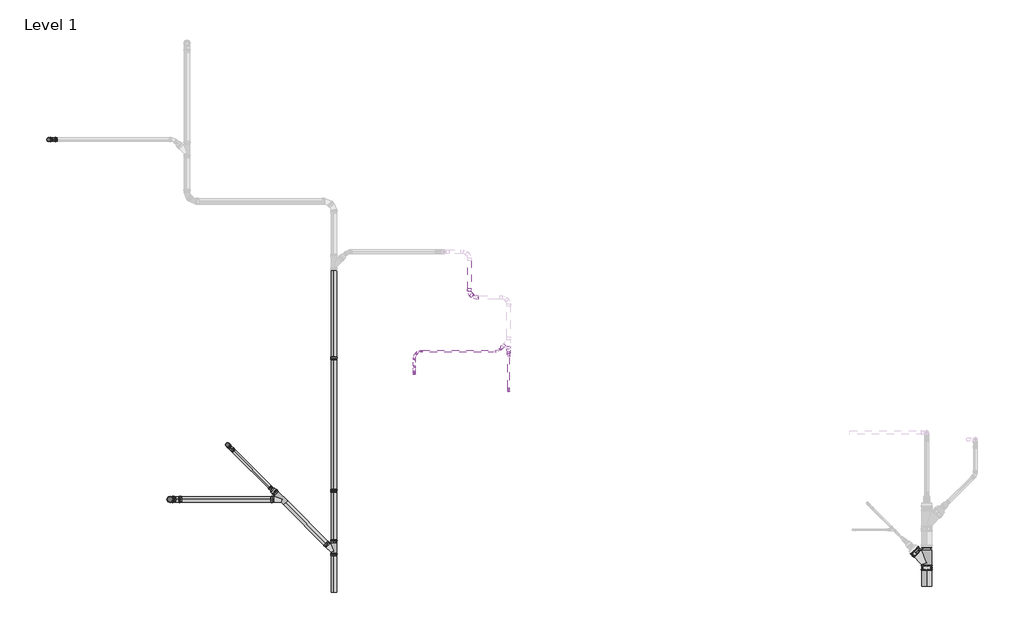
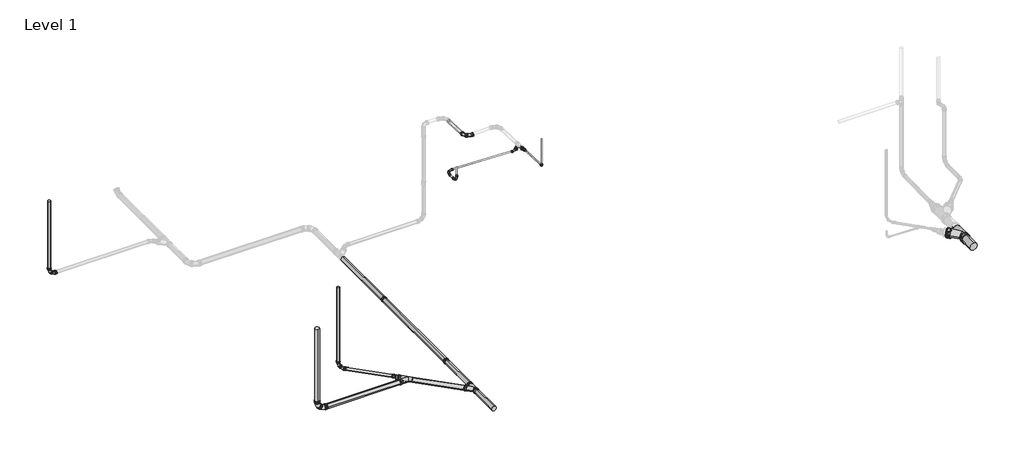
# One storey, part 1 of 8: 70 pipe fittings, 17 pipe segments.
"""IFC4 building model written with IfcOpenShell, lengths in millimetres."""

from ifc_helpers import new_model, si_unit, point, frame, frame_2d, origin, place, context, project, spatial, circle_curve, trimmed, segment, composite_curve, outline, extrude, transform, mapped, element, save
from components import std_369a79f5, std_37057e49, std_dee5be90, std_f0847e49, std_7ccef80b, std_0ddcd905, std_1f125482, std_4019324e, std_512bb775, std_3df9fb00, std_5a9869cf, std_dbb25919, std_nested_5b5722a1, std_nested_64a60f05, std_nested_30a605e0, std_nested_7094c661, std_nested_2aa3ba4e, std_nested_09001758, std_nested_0d9e00e9, std_nested_abb7c94b, std_nested_8823e034, std_nested_0554dc6d, std_nested_e6348f04, std_nested_a5353b42, std_nested_638a4417, std_nested_4ea8f2c9, std_nested_01edd257, std_nested_89a7624e, std_nested_dd60fd8d, std_nested_b0fd537b, std_nested_82956641, std_nested_473bf3f7, std_nested_83654513, std_nested_352c3d66, std_nested_72f87268, std_nested_de9a7761, std_nested_596bb4c3, std_nested_6f421a5c, std_nested_5daa23bf

model = new_model("IFC4")

# Units and contexts
model_context = context("Model", 3, world=origin())
ifc_project = project(units=[si_unit("LENGTHUNIT", "METRE", prefix="MILLI")], contexts=[model_context])

# Site, building, storey
site = spatial("IfcSite", under=ifc_project)
building = spatial("IfcBuilding", under=site)
storey = spatial("IfcBuildingStorey", under=building, Name="Level 1", Elevation=0.0)

# Pipe fittings
placement = place(None, origin())
std_shape = std_369a79f5(model_context)
element("IfcPipeFitting", 1, ObjectType="PIF_ST_UN_GM-X pipe end_ACO : std", at=placement, inside=storey, context=model_context, shape_type="MappedRepresentation", body=[
    mapped(std_shape, transform((-24268.2867366, 5467.3315003, 15.5), x_axis=(0.0, -1.0, 0.0), y_axis=(1.0, 0.0, 0.0), z_axis=(0.0, 0.0, 1.0))),
])
element("IfcPipeFitting", 2, ObjectType="PIF_ST_UN_GM-X pipe end_ACO : std", at=placement, inside=storey, context=model_context, shape_type="MappedRepresentation", body=[
    mapped(std_shape, transform((-24268.2867366, 1687.2987057, 15.5), x_axis=(0.0, -1.0, 0.0), y_axis=(1.0, 0.0, 0.0), z_axis=(0.0, 0.0, 1.0))),
])
std_2_shape = std_37057e49(model_context)
element("IfcPipeFitting", 3, ObjectType="PIF_ST_UN_GM-X angle bend 1a push socket_ACO : std", at=placement, inside=storey, context=model_context, shape_type="MappedRepresentation", body=[
    mapped(std_2_shape, transform((-19270.0353213, 4570.9654393, 3808.6513127), x_axis=(0.0, 0.0, -1.0), y_axis=(0.0, 1.0, 0.0), z_axis=(1.0, 0.0, 0.0))),
])
std_3_shape = std_dee5be90(model_context)
element("IfcPipeFitting", 4, ObjectType="PIF_ST_UN_GM-X double bend_ACO : std", at=placement, inside=storey, context=model_context, shape_type="MappedRepresentation", body=[
    mapped(std_3_shape, transform((-28953.2109771, 1476.4389591, 15.5), x_axis=(-1.0, 0.0, 0.0), y_axis=(0.0, 0.0, 1.0), z_axis=(0.0, 1.0, 0.0))),
])
std_4_shape = std_f0847e49(model_context)
element("IfcPipeFitting", 5, ObjectType="PIF_ST_UN_GM-X double bend_ACO : std", at=placement, inside=storey, context=model_context, shape_type="MappedRepresentation", body=[
    mapped(std_4_shape, transform((-32424.6112328, 11766.4867256, 15.5), x_axis=(0.0, 0.0, -1.0), y_axis=(1.0, 0.0, 0.0), z_axis=(0.0, -1.0, 0.0))),
])
std_5_shape = std_7ccef80b(model_context)
element("IfcPipeFitting", 6, ObjectType="PIF_ST_UN_GM-X double bend_ACO : std", at=placement, inside=storey, context=model_context, shape_type="MappedRepresentation", body=[
    mapped(std_5_shape, transform((-20392.1811992, 7253.2374554, 3645.5633324), x_axis=(0.0, -0.9993880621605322, 0.03497858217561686), y_axis=(0.999388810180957, 0.001222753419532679, 0.03493581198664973), z_axis=(-0.034957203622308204, 0.03495720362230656, 0.9987772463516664))),
])
std_6_shape = std_0ddcd905(model_context)
element("IfcPipeFitting", 7, ObjectType="PIF_ST_UN_GM-X double bend_ACO : std", at=placement, inside=storey, context=model_context, shape_type="MappedRepresentation", body=[
    mapped(std_6_shape, transform((-27308.2867366, 3040.0, 44.0), x_axis=(-0.7071067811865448, 0.7071067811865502, 0.0), y_axis=(0.0, 0.0, 1.0), z_axis=(0.7071067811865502, 0.7071067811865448, 0.0))),
])
std_7_shape = std_1f125482(model_context)
element("IfcPipeFitting", 8, ObjectType="PIF_ST_UN_GM-X double bend_ACO : std", at=placement, inside=storey, context=model_context, shape_type="MappedRepresentation", body=[
    mapped(std_7_shape, transform((-21970.2567796, 5066.372396, 3857.4966439), x_axis=(0.0, 0.0, -1.0), y_axis=(0.0, 1.0, 0.0), z_axis=(1.0, 0.0, 0.0))),
])
std_8_shape = std_4019324e(model_context)
element("IfcPipeFitting", 9, ObjectType="PIF_ST_UN_GM-X double bend_ACO : std", at=placement, inside=storey, context=model_context, shape_type="MappedRepresentation", body=[
    mapped(std_8_shape, transform((-21970.2653393, 5714.7138398, 3857.291032), x_axis=(-0.9993881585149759, 8.1466941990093e-05, 0.0349757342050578), y_axis=(-8.449490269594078e-05, -0.9999999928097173, -8.509510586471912e-05), z_axis=(0.03497572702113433, -8.799831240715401e-05, 0.9993881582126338))),
])
std_9_shape = std_512bb775(model_context)
element("IfcPipeFitting", 10, ObjectType="PIF_ST_UN_GM-X multibranch_ACO : std", at=placement, inside=storey, context=model_context, shape_type="MappedRepresentation", body=[
    mapped(std_9_shape, transform((-24268.2867366, 0.0, 15.5), x_axis=(0.0, 1.0, 0.0), y_axis=(-1.0, 0.0, 0.0), z_axis=(0.0, 0.0, 1.0))),
])
element("IfcPipeFitting", 11, ObjectType="PIF_ST_UN_GM-X multibranch_ACO : std", at=placement, inside=storey, context=model_context, shape_type="MappedRepresentation", body=[
    mapped(std_9_shape, transform((-25744.7256957, 1476.4389591, 15.5), x_axis=(-0.7071067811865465, 0.7071067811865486, 0.0), y_axis=(-0.7071067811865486, -0.7071067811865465, 0.0), z_axis=(0.0, 0.0, 1.0))),
])
std_10_shape = std_3df9fb00(model_context)
element("IfcPipeFitting", 12, ObjectType="PIF_ST_UN_GM-X multireducer_ACO : std", at=placement, inside=storey, context=model_context, shape_type="MappedRepresentation", body=[
    mapped(std_10_shape, transform((-19271.0829887, 5715.1373765, 3738.6352725), x_axis=(0.0, -0.9993880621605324, 0.03497858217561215), y_axis=(0.9993888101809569, -0.0012227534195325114, -0.034935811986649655), z_axis=(0.03495720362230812, 0.03495720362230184, 0.9987772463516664))),
])
std_11_shape = std_5a9869cf(model_context)
element("IfcPipeFitting", 13, ObjectType="PIF_ST_UN_GM-X multireducer_ACO : std", at=placement, inside=storey, context=model_context, shape_type="MappedRepresentation", body=[
    mapped(std_11_shape, transform((-25983.0206809, 1714.7339444, 15.5), x_axis=(-0.7071067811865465, 0.7071067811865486, 0.0), y_axis=(-0.7071067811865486, -0.7071067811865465, 0.0), z_axis=(0.0, 0.0, 1.0))),
])
std_12_shape = std_dbb25919(model_context)
element("IfcPipeFitting", 14, ObjectType="PIF_ST_UN_GM-X multibranch_ACO : std", at=placement, inside=storey, context=model_context, shape_type="MappedRepresentation", body=[
    mapped(std_12_shape, transform((-7316.8097007, -328.1432384, 8.8352587), x_axis=(0.0, 0.9998875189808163, 0.014998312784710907), y_axis=(-0.9999807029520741, -9.317528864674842e-05, 0.006211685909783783), z_axis=(0.006212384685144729, -0.014998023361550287, 0.9998682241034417))),
])
std_nested_shape = std_nested_5b5722a1(model_context)
element("IfcPipeFitting", 15, ObjectType="ZZZ_do not use_PIF_ST_UN_GM-X single branch_ACO : std (nested)", at=placement, inside=storey, context=model_context, shape_type="MappedRepresentation", body=[
    mapped(std_nested_shape, transform((-24268.2867366, 0.0, 15.5), x_axis=(0.0, 1.0, 0.0), y_axis=(-1.0, 0.0, 0.0), z_axis=(0.0, 0.0, 1.0))),
])
std_nested_2_shape = std_nested_64a60f05(model_context)
element("IfcPipeFitting", 16, ObjectType="ZZZ_do not use_PIF_ST_UN_GM-X single branch_ACO : std (nested)", at=placement, inside=storey, context=model_context, shape_type="MappedRepresentation", body=[
    mapped(std_nested_2_shape, transform((-25744.7256957, 1476.4389591, 15.5), x_axis=(-0.7071067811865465, 0.7071067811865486, 0.0), y_axis=(-0.7071067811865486, -0.7071067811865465, 0.0), z_axis=(0.0, 0.0, 1.0))),
])
std_nested_3_shape = std_nested_30a605e0(model_context)
element("IfcPipeFitting", 17, ObjectType="ZZZ_do not use_PIF_ST_UN_GM-X transition element_ACO : std (nested)", at=placement, inside=storey, context=model_context, shape_type="MappedRepresentation", body=[
    mapped(std_nested_3_shape, transform((-25983.0206809, 1714.7339444, 15.5), x_axis=(-0.7071067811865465, 0.7071067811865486, 0.0), y_axis=(-0.7071067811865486, -0.7071067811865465, 0.0), z_axis=(0.0, 0.0, 1.0))),
])
std_nested_4_shape = std_nested_7094c661(model_context)
element("IfcPipeFitting", 18, ObjectType="ZZZ_do not use_PIF_ST_UN_GM-X transition element_ACO : std (nested)", at=placement, inside=storey, context=model_context, shape_type="MappedRepresentation", body=[
    mapped(std_nested_4_shape, transform((-19435.9972634, 5842.5575691, 3739.9475654), x_axis=(-0.7062709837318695, -0.7062133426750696, 0.04943695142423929), y_axis=(-0.7070779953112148, 0.7071355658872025, -2.0149701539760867e-06), z_axis=(-0.034957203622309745, -0.03495720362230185, -0.9987772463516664))),
])
std_nested_5_shape = std_nested_2aa3ba4e(model_context)
element("IfcPipeFitting", 19, ObjectType="ZZZ_do not use_PIF_ST_UN_GM-X transition element_ACO : std (nested)", at=placement, inside=storey, context=model_context, shape_type="MappedRepresentation", body=[
    mapped(std_nested_5_shape, transform((-19271.0829887, 5772.60219, 3736.624004), x_axis=(0.0, -0.9993880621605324, 0.03497858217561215), y_axis=(0.9993888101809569, -0.0012227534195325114, -0.034935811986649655), z_axis=(0.03495720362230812, 0.03495720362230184, 0.9987772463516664))),
])
std_nested_6_shape = std_nested_09001758(model_context)
element("IfcPipeFitting", 20, ObjectType="ZZZ_do not use_PIF_ST_UN_GM-X transition element_ACO : std (nested)", at=placement, inside=storey, context=model_context, shape_type="MappedRepresentation", body=[
    mapped(std_nested_6_shape, transform((-19270.5771579, 5635.6921622, 3755.8858658), x_axis=(0.0, -0.9993880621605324, 0.03497858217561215), y_axis=(0.9993888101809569, -0.0012227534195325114, -0.034935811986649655), z_axis=(0.03495720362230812, 0.03495720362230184, 0.9987772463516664))),
])
std_nested_7_shape = std_nested_0d9e00e9(model_context)
element("IfcPipeFitting", 21, ObjectType="ZZZ_do not use_PIF_ST_UN_GM-X pipe bend_ACO : std (nested)", at=placement, inside=storey, context=model_context, shape_type="MappedRepresentation", body=[
    mapped(std_nested_7_shape, transform((-27308.2867366, 3040.0, 169.8650071), x_axis=(-0.5000000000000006, 0.5000000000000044, 0.707106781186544), y_axis=(0.4999999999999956, -0.49999999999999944, 0.707106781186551), z_axis=(0.7071067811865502, 0.7071067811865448, 0.0))),
])
std_nested_8_shape = std_nested_abb7c94b(model_context)
element("IfcPipeFitting", 22, ObjectType="ZZZ_do not use_PIF_ST_UN_GM-X pipe bend_ACO : std (nested)", at=placement, inside=storey, context=model_context, shape_type="MappedRepresentation", body=[
    mapped(std_nested_8_shape, transform((-28779.9698157, 1476.4389591, 15.5), x_axis=(-1.0, 0.0, 0.0), y_axis=(0.0, 0.0, 1.0), z_axis=(0.0, 1.0, 0.0))),
])
std_nested_9_shape = std_nested_8823e034(model_context)
element("IfcPipeFitting", 23, ObjectType="ZZZ_do not use_PIF_ST_UN_GM-X pipe bend_ACO : std (nested)", at=placement, inside=storey, context=model_context, shape_type="MappedRepresentation", body=[
    mapped(std_nested_9_shape, transform((-28953.2109771, 1476.4389591, 188.7411614), x_axis=(-0.707106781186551, 0.0, 0.7071067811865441), y_axis=(0.7071067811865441, 0.0, 0.707106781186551), z_axis=(0.0, 1.0, 0.0))),
])
std_nested_10_shape = std_nested_0554dc6d(model_context)
element("IfcPipeFitting", 24, ObjectType="ZZZ_do not use_PIF_ST_UN_GM-X pipe bend_ACO : std (nested)", at=placement, inside=storey, context=model_context, shape_type="MappedRepresentation", body=[
    mapped(std_nested_10_shape, transform((-32424.6112328, 11766.4867256, 141.3650071), x_axis=(0.0, 0.0, -1.0), y_axis=(1.0, 0.0, 0.0), z_axis=(0.0, -1.0, 0.0))),
])
std_nested_11_shape = std_nested_e6348f04(model_context)
element("IfcPipeFitting", 25, ObjectType="ZZZ_do not use_PIF_ST_UN_GM-X pipe bend_ACO : std (nested)", at=placement, inside=storey, context=model_context, shape_type="MappedRepresentation", body=[
    mapped(std_nested_11_shape, transform((-32298.7462258, 11766.4867256, 15.5), x_axis=(0.707106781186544, 0.0, -0.707106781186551), y_axis=(0.707106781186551, 0.0, 0.707106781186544), z_axis=(0.0, -1.0, 0.0))),
])
std_nested_12_shape = std_nested_a5353b42(model_context)
element("IfcPipeFitting", 26, ObjectType="ZZZ_do not use_PIF_ST_UN_GM-X pipe bend_ACO : std (nested)", at=placement, inside=storey, context=model_context, shape_type="MappedRepresentation", body=[
    mapped(std_nested_12_shape, transform((-20392.1811992, 7378.9485606, 3641.1634437), x_axis=(0.0, -0.9993880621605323, 0.03497858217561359), y_axis=(0.999388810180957, 0.0012227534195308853, 0.034935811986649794), z_axis=(-0.034957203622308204, 0.03495720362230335, 0.9987772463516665))),
])
std_nested_13_shape = std_nested_638a4417(model_context)
element("IfcPipeFitting", 27, ObjectType="ZZZ_do not use_PIF_ST_UN_GM-X pipe bend_ACO : std (nested)", at=placement, inside=storey, context=model_context, shape_type="MappedRepresentation", body=[
    mapped(std_nested_13_shape, transform((-20266.470094, 7253.2374554, 3649.963221), x_axis=(0.7062421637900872, -0.7062421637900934, 0.04943695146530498), y_axis=(0.7071067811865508, 0.7071067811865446, 0.0), z_axis=(-0.034957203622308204, 0.03495720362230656, 0.9987772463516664))),
])
std_nested_14_shape = std_nested_4ea8f2c9(model_context)
element("IfcPipeFitting", 28, ObjectType="ZZZ_do not use_PIF_ST_UN_GM-X pipe bend_ACO : std (nested)", at=placement, inside=storey, context=model_context, shape_type="MappedRepresentation", body=[
    mapped(std_nested_14_shape, transform((-19564.047851, 5714.517501, 3773.0802917), x_axis=(-0.7062709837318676, -0.7062133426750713, 0.04943695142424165), y_axis=(-0.7070779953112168, 0.7071355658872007, -2.0149701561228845e-06), z_axis=(-0.03495720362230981, -0.03495720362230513, -0.9987772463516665))),
])
std_nested_15_shape = std_nested_01edd257(model_context)
element("IfcPipeFitting", 29, ObjectType="ZZZ_do not use_PIF_ST_UN_GM-X pipe bend_ACO : std (nested)", at=placement, inside=storey, context=model_context, shape_type="MappedRepresentation", body=[
    mapped(std_nested_15_shape, transform((-27219.2867366, 2951.0, 44.0), x_axis=(-0.707106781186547, 0.707106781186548, 0.0), y_axis=(0.0, 0.0, 1.0), z_axis=(0.707106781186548, 0.707106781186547, 0.0))),
])
std_nested_16_shape = std_nested_89a7624e(model_context)
element("IfcPipeFitting", 30, ObjectType="ZZZ_do not use_PIF_ST_UN_GM-X pipe bend_ACO : std (nested)", at=placement, inside=storey, context=model_context, shape_type="MappedRepresentation", body=[
    mapped(std_nested_16_shape, transform((-21970.2567796, 5066.372396, 3984.7814685), x_axis=(0.0, 0.0, -1.0), y_axis=(0.0, 1.0, 0.0), z_axis=(1.0, 0.0, 0.0))),
])
std_nested_17_shape = std_nested_dd60fd8d(model_context)
element("IfcPipeFitting", 31, ObjectType="ZZZ_do not use_PIF_ST_UN_GM-X pipe bend_ACO : std (nested)", at=placement, inside=storey, context=model_context, shape_type="MappedRepresentation", body=[
    mapped(std_nested_17_shape, transform((-21970.2567796, 5193.6572201, 3857.5078516), x_axis=(0.0, 0.7071379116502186, -0.7070756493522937), y_axis=(0.0, 0.7070756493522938, 0.7071379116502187), z_axis=(1.0000000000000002, 0.0, 0.0))),
])
std_nested_18_shape = std_nested_b0fd537b(model_context)
element("IfcPipeFitting", 32, ObjectType="ZZZ_do not use_PIF_ST_UN_GM-X pipe bend_ACO : std (nested)", at=placement, inside=storey, context=model_context, shape_type="MappedRepresentation", body=[
    mapped(std_nested_18_shape, transform((-21843.0586158, 5714.7034703, 3852.8391596), x_axis=(-0.999388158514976, 8.146694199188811e-05, 0.034975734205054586), y_axis=(-8.449490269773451e-05, -0.9999999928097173, -8.509510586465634e-05), z_axis=(0.034975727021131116, -8.799831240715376e-05, 0.9993881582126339))),
])
std_nested_19_shape = std_nested_82956641(model_context)
element("IfcPipeFitting", 33, ObjectType="ZZZ_do not use_PIF_ST_UN_GM-X pipe bend_ACO : std (nested)", at=placement, inside=storey, context=model_context, shape_type="MappedRepresentation", body=[
    mapped(std_nested_19_shape, transform((-21970.2653393, 5587.4292388, 3857.2798243), x_axis=(-0.7067040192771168, -0.7070790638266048, 0.024670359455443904), y_axis=(0.7066442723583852, -0.7071344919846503, -0.024792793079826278), z_axis=(0.03497572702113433, -8.799831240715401e-05, 0.9993881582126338))),
])
std_nested_20_shape = std_nested_473bf3f7(model_context)
element("IfcPipeFitting", 34, ObjectType="ZZZ_do not use_PIF_ST_UN_GM-X seal non transitional_ACO : std (nested)", at=placement, inside=storey, context=model_context, shape_type="MappedRepresentation", body=[
    mapped(std_nested_20_shape, transform((-32424.6112328, 11766.4867256, 265.3650071), x_axis=(0.0, 0.0, 1.0), y_axis=(-1.0, 0.0, 0.0), z_axis=(0.0, -1.0, 0.0))),
])
element("IfcPipeFitting", 35, ObjectType="ZZZ_do not use_PIF_ST_UN_GM-X seal non transitional_ACO : std (nested)", at=placement, inside=storey, context=model_context, shape_type="MappedRepresentation", body=[
    mapped(std_nested_20_shape, transform((-32386.4274666, 11766.4867256, 103.1812409), x_axis=(-0.7071067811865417, 0.0, 0.7071067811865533), y_axis=(-0.7071067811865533, 0.0, -0.7071067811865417), z_axis=(0.0, -1.0, 0.0))),
])
element("IfcPipeFitting", 36, ObjectType="ZZZ_do not use_PIF_ST_UN_GM-X seal non transitional_ACO : std (nested)", at=placement, inside=storey, context=model_context, shape_type="MappedRepresentation", body=[
    mapped(std_nested_20_shape, transform((-19429.99396, 5848.5603826, 3739.5273513), x_axis=(-0.7062709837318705, -0.7062133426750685, 0.04943695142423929), y_axis=(-0.7070779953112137, 0.7071355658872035, -2.0149701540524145e-06), z_axis=(-0.034957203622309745, -0.03495720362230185, -0.9987772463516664))),
])
element("IfcPipeFitting", 37, ObjectType="ZZZ_do not use_PIF_ST_UN_GM-X seal non transitional_ACO : std (nested)", at=placement, inside=storey, context=model_context, shape_type="MappedRepresentation", body=[
    mapped(std_nested_20_shape, transform((-19271.0829887, 5782.5960707, 3736.2742182), x_axis=(0.0, -0.9993880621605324, 0.03497858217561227), y_axis=(-0.9993888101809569, 0.00122275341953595, 0.03493581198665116), z_axis=(-0.034957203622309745, -0.03495720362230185, -0.9987772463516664))),
])
element("IfcPipeFitting", 38, ObjectType="ZZZ_do not use_PIF_ST_UN_GM-X seal non transitional_ACO : std (nested)", at=placement, inside=storey, context=model_context, shape_type="MappedRepresentation", body=[
    mapped(std_nested_20_shape, transform((-26101.1075134, 1832.8207768, 44.0), x_axis=(-0.7071067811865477, 0.7071067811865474, 0.0), y_axis=(-0.7071067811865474, -0.7071067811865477, 0.0), z_axis=(0.0, 0.0, 1.0))),
])
element("IfcPipeFitting", 39, ObjectType="ZZZ_do not use_PIF_ST_UN_GM-X seal non transitional_ACO : std (nested)", at=placement, inside=storey, context=model_context, shape_type="MappedRepresentation", body=[
    mapped(std_nested_20_shape, transform((-20304.6071708, 7291.3745323, 3647.2936257), x_axis=(0.7062421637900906, -0.7062421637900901, 0.04943695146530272), y_axis=(0.7071067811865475, 0.707106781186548, 0.0), z_axis=(-0.034957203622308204, 0.03495720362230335, 0.9987772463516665))),
])
element("IfcPipeFitting", 40, ObjectType="ZZZ_do not use_PIF_ST_UN_GM-X seal non transitional_ACO : std (nested)", at=placement, inside=storey, context=model_context, shape_type="MappedRepresentation", body=[
    mapped(std_nested_20_shape, transform((-27281.2867366, 3013.0, 131.6812409), x_axis=(-0.5, 0.5000000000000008, 0.7071067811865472), y_axis=(0.49999999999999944, -0.5000000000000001, 0.707106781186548), z_axis=(0.707106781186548, 0.707106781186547, 0.0))),
])
element("IfcPipeFitting", 41, ObjectType="ZZZ_do not use_PIF_ST_UN_GM-X seal non transitional_ACO : std (nested)", at=placement, inside=storey, context=model_context, shape_type="MappedRepresentation", body=[
    mapped(std_nested_20_shape, transform((-32244.7462258, 11766.4867256, 15.5), x_axis=(-1.0, 0.0, 0.0), y_axis=(0.0, 0.0, -1.0), z_axis=(0.0, -1.0, 0.0))),
])
element("IfcPipeFitting", 42, ObjectType="ZZZ_do not use_PIF_ST_UN_GM-X seal non transitional_ACO : std (nested)", at=placement, inside=storey, context=model_context, shape_type="MappedRepresentation", body=[
    mapped(std_nested_20_shape, transform((-20392.1811992, 7432.9155159, 3639.2746002), x_axis=(0.0, -0.9993880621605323, 0.034978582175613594), y_axis=(0.999388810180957, 0.0012227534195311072, 0.03493581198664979), z_axis=(-0.034957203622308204, 0.03495720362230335, 0.9987772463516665))),
])
element("IfcPipeFitting", 43, ObjectType="ZZZ_do not use_PIF_ST_UN_GM-X seal non transitional_ACO : std (nested)", at=placement, inside=storey, context=model_context, shape_type="MappedRepresentation", body=[
    mapped(std_nested_20_shape, transform((-20142.5459743, 7253.2374554, 3654.3005652), x_axis=(0.9993880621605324, 0.0, 0.03497858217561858), y_axis=(0.0012227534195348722, 0.9993888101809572, -0.03493581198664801), z_axis=(-0.034957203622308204, 0.03495720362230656, 0.9987772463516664))),
])
element("IfcPipeFitting", 44, ObjectType="ZZZ_do not use_PIF_ST_UN_GM-X seal non transitional_ACO : std (nested)", at=placement, inside=storey, context=model_context, shape_type="MappedRepresentation", body=[
    mapped(std_nested_20_shape, transform((-27181.1029704, 2912.8162338, 44.0), x_axis=(-0.707106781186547, 0.707106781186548, 0.0), y_axis=(0.0, 0.0, 1.0), z_axis=(0.707106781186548, 0.707106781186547, 0.0))),
])
element("IfcPipeFitting", 45, ObjectType="ZZZ_do not use_PIF_ST_UN_GM-X seal non transitional_ACO : std (nested)", at=placement, inside=storey, context=model_context, shape_type="MappedRepresentation", body=[
    mapped(std_nested_20_shape, transform((-27308.2867366, 3040.0, 293.8650071), x_axis=(0.0, 0.0, 1.0), y_axis=(0.7071067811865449, -0.7071067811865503, 0.0), z_axis=(0.7071067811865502, 0.7071067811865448, 0.0))),
])
std_nested_21_shape = std_nested_83654513(model_context)
element("IfcPipeFitting", 46, ObjectType="ZZZ_do not use_PIF_ST_UN_GM-X seal non transitional_ACO : std (nested)", at=placement, inside=storey, context=model_context, shape_type="MappedRepresentation", body=[
    mapped(std_nested_21_shape, transform((-19270.5771579, 5638.1906324, 3755.7984194), x_axis=(0.0, -0.9993880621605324, 0.03497858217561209), y_axis=(0.9993888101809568, -0.001222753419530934, -0.03493581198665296), z_axis=(0.03495720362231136, 0.034957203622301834, 0.9987772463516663))),
])
std_nested_22_shape = std_nested_352c3d66(model_context)
element("IfcPipeFitting", 47, ObjectType="ZZZ_do not use_PIF_ST_UN_GM-X seal non transitional_ACO : std (nested)", at=placement, inside=storey, context=model_context, shape_type="MappedRepresentation", body=[
    mapped(std_nested_22_shape, transform((-21970.2567796, 5066.372396, 4098.7814685), x_axis=(0.0, 0.0, 1.0), y_axis=(0.0, -1.0, 0.0), z_axis=(1.0, 0.0, 0.0))),
])
element("IfcPipeFitting", 48, ObjectType="ZZZ_do not use_PIF_ST_UN_GM-X seal non transitional_ACO : std (nested)", at=placement, inside=storey, context=model_context, shape_type="MappedRepresentation", body=[
    mapped(std_nested_22_shape, transform((-21970.2567796, 5113.0434981, 3938.1144756), x_axis=(0.0, -0.7071379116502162, 0.707075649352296), y_axis=(0.0, -0.7070756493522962, -0.7071379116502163), z_axis=(1.0000000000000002, 0.0, 0.0))),
])
element("IfcPipeFitting", 49, ObjectType="ZZZ_do not use_PIF_ST_UN_GM-X seal non transitional_ACO : std (nested)", at=placement, inside=storey, context=model_context, shape_type="MappedRepresentation", body=[
    mapped(std_nested_22_shape, transform((-19517.4339661, 5761.1275816, 3769.8174529), x_axis=(-0.7062709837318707, -0.7062133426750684, 0.04943695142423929), y_axis=(-0.7070779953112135, 0.7071355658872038, -2.014970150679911e-06), z_axis=(-0.03495720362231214, -0.034957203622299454, -0.9987772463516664))),
])
element("IfcPipeFitting", 50, ObjectType="ZZZ_do not use_PIF_ST_UN_GM-X seal non transitional_ACO : std (nested)", at=placement, inside=storey, context=model_context, shape_type="MappedRepresentation", body=[
    mapped(std_nested_22_shape, transform((-21923.622874, 5634.096457, 3855.6515805), x_axis=(-0.7067040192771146, -0.707079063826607, 0.024670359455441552), y_axis=(0.7066442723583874, -0.7071344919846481, -0.024792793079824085), z_axis=(0.034975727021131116, -8.799831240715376e-05, 0.9993881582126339))),
])
element("IfcPipeFitting", 51, ObjectType="ZZZ_do not use_PIF_ST_UN_GM-X seal non transitional_ACO : std (nested)", at=placement, inside=storey, context=model_context, shape_type="MappedRepresentation", body=[
    mapped(std_nested_22_shape, transform((-21970.2567796, 5259.6572198, 3857.513663), x_axis=(0.0, -0.9999999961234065, -8.805218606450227e-05), y_axis=(0.0, 8.805218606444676e-05, -0.9999999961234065), z_axis=(1.0000000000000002, 0.0, 0.0))),
])
element("IfcPipeFitting", 52, ObjectType="ZZZ_do not use_PIF_ST_UN_GM-X seal non transitional_ACO : std (nested)", at=placement, inside=storey, context=model_context, shape_type="MappedRepresentation", body=[
    mapped(std_nested_22_shape, transform((-21777.0989973, 5714.6980935, 3850.5307611), x_axis=(-0.999388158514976, 8.146694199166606e-05, 0.034975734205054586), y_axis=(-8.44949026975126e-05, -0.9999999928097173, -8.50951058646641e-05), z_axis=(0.034975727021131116, -8.799831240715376e-05, 0.9993881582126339))),
])
element("IfcPipeFitting", 53, ObjectType="ZZZ_do not use_PIF_ST_UN_GM-X seal non transitional_ACO : std (nested)", at=placement, inside=storey, context=model_context, shape_type="MappedRepresentation", body=[
    mapped(std_nested_22_shape, transform((-21970.2653393, 5473.4292392, 3857.2697863), x_axis=(0.0, -0.9999999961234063, -8.805218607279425e-05), y_axis=(0.9993881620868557, 3.0796892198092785e-06, -0.03497572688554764), z_axis=(0.03497572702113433, -8.799831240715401e-05, 0.9993881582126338))),
])
std_nested_23_shape = std_nested_72f87268(model_context)
element("IfcPipeFitting", 54, ObjectType="ZZZ_do not use_PIF_ST_UN_GM-X seal non transitional_ACO : std (nested)", at=placement, inside=storey, context=model_context, shape_type="MappedRepresentation", body=[
    mapped(std_nested_23_shape, transform((-24494.5609066, 226.27417, 15.5), x_axis=(-0.7071067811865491, 0.7071067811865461, 0.0), y_axis=(-0.7071067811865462, -0.7071067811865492, 0.0), z_axis=(0.0, 0.0, 1.0000000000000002))),
])
element("IfcPipeFitting", 55, ObjectType="ZZZ_do not use_PIF_ST_UN_GM-X seal non transitional_ACO : std (nested)", at=placement, inside=storey, context=model_context, shape_type="MappedRepresentation", body=[
    mapped(std_nested_23_shape, transform((-24268.2867366, 320.0, 15.5), x_axis=(0.0, 1.0, 0.0), y_axis=(-1.0, 0.0, 0.0), z_axis=(0.0, 0.0, 1.0))),
])
element("IfcPipeFitting", 56, ObjectType="ZZZ_do not use_PIF_ST_UN_GM-X seal non transitional_ACO : std (nested)", at=placement, inside=storey, context=model_context, shape_type="MappedRepresentation", body=[
    mapped(std_nested_23_shape, transform((-26064.7256957, 1476.4389591, 15.5), x_axis=(-1.0000000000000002, 0.0, 0.0), y_axis=(0.0, -1.0000000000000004, 0.0), z_axis=(0.0, 0.0, 1.0000000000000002))),
])
element("IfcPipeFitting", 57, ObjectType="ZZZ_do not use_PIF_ST_UN_GM-X seal non transitional_ACO : std (nested)", at=placement, inside=storey, context=model_context, shape_type="MappedRepresentation", body=[
    mapped(std_nested_23_shape, transform((-25970.9998657, 1702.7131291, 15.5), x_axis=(-0.7071067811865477, 0.7071067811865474, 0.0), y_axis=(-0.7071067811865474, -0.7071067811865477, 0.0), z_axis=(0.0, 0.0, 1.0))),
])
element("IfcPipeFitting", 58, ObjectType="ZZZ_do not use_PIF_ST_UN_GM-X seal non transitional_ACO : std (nested)", at=placement, inside=storey, context=model_context, shape_type="MappedRepresentation", body=[
    mapped(std_nested_23_shape, transform((-28895.228221, 1476.4389591, 130.7584053), x_axis=(-0.7071067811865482, 0.0, 0.7071067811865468), y_axis=(0.7071067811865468, 0.0, 0.7071067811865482), z_axis=(0.0, 1.0, 0.0))),
])
element("IfcPipeFitting", 59, ObjectType="ZZZ_do not use_PIF_ST_UN_GM-X seal non transitional_ACO : std (nested)", at=placement, inside=storey, context=model_context, shape_type="MappedRepresentation", body=[
    mapped(std_nested_23_shape, transform((-24268.2867366, 5547.3315003, 15.5), x_axis=(0.0, 1.0, 0.0), y_axis=(-1.0, 0.0, 0.0), z_axis=(0.0, 0.0, 1.0))),
])
element("IfcPipeFitting", 60, ObjectType="ZZZ_do not use_PIF_ST_UN_GM-X seal non transitional_ACO : std (nested)", at=placement, inside=storey, context=model_context, shape_type="MappedRepresentation", body=[
    mapped(std_nested_23_shape, transform((-24268.2867366, 1767.2987057, 15.5), x_axis=(0.0, 1.0, 0.0), y_axis=(-1.0, 0.0, 0.0), z_axis=(0.0, 0.0, 1.0))),
])
element("IfcPipeFitting", 61, ObjectType="ZZZ_do not use_PIF_ST_UN_GM-X seal non transitional_ACO : std (nested)", at=placement, inside=storey, context=model_context, shape_type="MappedRepresentation", body=[
    mapped(std_nested_23_shape, transform((-24268.2867366, -60.0, 15.5), x_axis=(0.0, 1.0, 0.0), y_axis=(1.0, 0.0, 0.0), z_axis=(0.0, 0.0, -1.0))),
])
element("IfcPipeFitting", 62, ObjectType="ZZZ_do not use_PIF_ST_UN_GM-X seal non transitional_ACO : std (nested)", at=placement, inside=storey, context=model_context, shape_type="MappedRepresentation", body=[
    mapped(std_nested_23_shape, transform((-28697.9698157, 1476.4389591, 15.5), x_axis=(-1.0, 0.0, 0.0), y_axis=(0.0, 0.0, 1.0), z_axis=(0.0, 1.0, 0.0))),
])
element("IfcPipeFitting", 63, ObjectType="ZZZ_do not use_PIF_ST_UN_GM-X seal non transitional_ACO : std (nested)", at=placement, inside=storey, context=model_context, shape_type="MappedRepresentation", body=[
    mapped(std_nested_23_shape, transform((-28953.2109771, 1476.4389591, 351.7411614), x_axis=(0.0, 0.0, 1.0), y_axis=(1.0, 0.0, 0.0), z_axis=(0.0, 1.0, 0.0))),
])
std_nested_24_shape = std_nested_de9a7761(model_context)
element("IfcPipeFitting", 64, ObjectType="ZZZ_do not use_PIF_ST_UN_GM-X single branch socket free_ACO : std (nested)", at=placement, inside=storey, context=model_context, shape_type="MappedRepresentation", body=[
    mapped(std_nested_24_shape, transform((-7316.8097007, -328.1432384, 8.8352587), x_axis=(0.0, 0.9998875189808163, 0.014998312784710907), y_axis=(-0.9999807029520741, -9.317528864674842e-05, 0.006211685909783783), z_axis=(0.006212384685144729, -0.014998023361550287, 0.9998682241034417))),
])
std_nested_25_shape = std_nested_596bb4c3(model_context)
element("IfcPipeFitting", 65, ObjectType="ZZZ_do not use_PIF_ST_UN_GM-X rapid clamp_ACO : std (nested)", at=placement, inside=storey, context=model_context, shape_type="MappedRepresentation", body=[
    mapped(std_nested_25_shape, transform((-7316.8097007, -476.1265912, 6.6155084), x_axis=(0.0, -0.9998875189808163, -0.014998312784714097), y_axis=(-0.006212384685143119, 0.014998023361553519, -0.9998682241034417), z_axis=(0.9999807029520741, 9.317528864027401e-05, -0.00621168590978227))),
])
element("IfcPipeFitting", 66, ObjectType="ZZZ_do not use_PIF_ST_UN_GM-X rapid clamp_ACO : std (nested)", at=placement, inside=storey, context=model_context, shape_type="MappedRepresentation", body=[
    mapped(std_nested_25_shape, transform((-7622.9524978, -22.0004413, 15.3295281), x_axis=(-0.7070272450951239, 0.7070272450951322, 0.014998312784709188), y_axis=(-0.006212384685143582, 0.014998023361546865, -0.9998682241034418), z_axis=(-0.7071590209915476, -0.707027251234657, -0.00621168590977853))),
])
std_nested_26_shape = std_nested_6f421a5c(model_context)
element("IfcPipeFitting", 67, ObjectType="ZZZ_do not use_PIF_ST_UN_GM-X universal claw_ACO : std (nested)", at=placement, inside=storey, context=model_context, shape_type="MappedRepresentation", body=[
    mapped(std_nested_26_shape, transform((-7316.8097007, -476.1265912, 6.6155084), x_axis=(0.0, -0.9998875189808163, -0.014998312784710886), y_axis=(-0.9999807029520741, -9.317528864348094e-05, 0.0062116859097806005), z_axis=(-0.006212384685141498, 0.014998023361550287, -0.9998682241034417))),
])
element("IfcPipeFitting", 68, ObjectType="ZZZ_do not use_PIF_ST_UN_GM-X universal claw_ACO : std (nested)", at=placement, inside=storey, context=model_context, shape_type="MappedRepresentation", body=[
    mapped(std_nested_26_shape, transform((-7622.9524978, -22.0004413, 15.3295281), x_axis=(-0.7070272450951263, 0.7070272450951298, 0.014998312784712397), y_axis=(0.7071590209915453, 0.7070272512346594, 0.006211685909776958), z_axis=(-0.006212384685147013, 0.014998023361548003, -0.9998682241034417))),
])
std_nested_27_shape = std_nested_5daa23bf(model_context)
element("IfcPipeFitting", 69, ObjectType="ZZZ_do not use_PIF_ST_UN_GM-X seal non transitional_ACO : std (nested)", at=placement, inside=storey, context=model_context, shape_type="MappedRepresentation", body=[
    mapped(std_nested_27_shape, transform((-19270.0353213, 4570.9654393, 3873.6513127), x_axis=(0.0, 0.0, 1.0), y_axis=(0.0, -1.0, 0.0), z_axis=(1.0, 0.0, 0.0))),
])
element("IfcPipeFitting", 70, ObjectType="ZZZ_do not use_PIF_ST_UN_GM-X seal non transitional_ACO : std (nested)", at=placement, inside=storey, context=model_context, shape_type="MappedRepresentation", body=[
    mapped(std_nested_27_shape, transform((-19270.0353213, 4620.9348424, 3806.9023836), x_axis=(0.0, -0.9993880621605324, 0.034978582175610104), y_axis=(0.0, 0.034978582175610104, 0.9993880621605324), z_axis=(-1.0, 0.0, 0.0))),
])

# Pipe segments
element("IfcPipeSegment", 71, ObjectType="GM-X pipe complex", at=placement, inside=storey, context=model_context, shape_type="SweptSolid", body=[
    extrude(outline(composite_curve([segment(trimmed(circle_curve(frame_2d((0.0, -136.5)), 136.5), [point((-136.5, -136.5))], [point((0.0, 0.0))], False, "CARTESIAN"), True, "CONTINUOUS"), segment(trimmed(circle_curve(frame_2d((0.0, -136.5)), 136.5), [point((0.0, 0.0))], [point((136.5, -136.5))], False, "CARTESIAN"), True, "CONTINUOUS"), segment(trimmed(circle_curve(frame_2d((0.0, -136.5)), 136.5), [point((136.5, -136.5))], [point((0.0, -272.9999999))], False, "CARTESIAN"), True, "CONTINUOUS"), segment(trimmed(circle_curve(frame_2d((0.0, -136.5)), 136.5), [point((0.0, -272.9999999))], [point((-136.5, -136.5))], False, "CARTESIAN"), True, "CONTINUOUS")], self_intersect=False)), frame((-7316.8097007, -997.9340956, -137.7269595), z_axis=(0.0, 0.9998875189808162, 0.014998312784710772), x_axis=(1.0, 0.0, 0.0)), (0.0, 0.0, 1.0), 520.9137044),
])
element("IfcPipeSegment", 72, ObjectType="GM-X pipe complex", at=placement, inside=storey, context=model_context, shape_type="SweptSolid", body=[
    extrude(outline(composite_curve([segment(trimmed(circle_curve(frame_2d((15.5, -24268.2867366)), 79.5), [point((15.5, -24347.7867366))], [point((-64.0, -24268.2867366))], False, "CARTESIAN"), True, "CONTINUOUS"), segment(trimmed(circle_curve(frame_2d((15.5, -24268.2867366)), 79.5), [point((-64.0, -24268.2867366))], [point((15.5, -24188.7867366))], False, "CARTESIAN"), True, "CONTINUOUS"), segment(trimmed(circle_curve(frame_2d((15.5, -24268.2867366)), 79.5), [point((15.5, -24188.7867366))], [point((95.0, -24268.2867366))], False, "CARTESIAN"), True, "CONTINUOUS"), segment(trimmed(circle_curve(frame_2d((15.5, -24268.2867366)), 79.5), [point((95.0, -24268.2867366))], [point((15.5, -24347.7867366))], False, "CARTESIAN"), True, "CONTINUOUS")], self_intersect=False)), frame((0.0, -1177.1676841, 0.0), z_axis=(0.0, 1.0, 0.0), x_axis=(0.0, 0.0, 1.0)), (0.0, 0.0, 1.0), 1037.1676841),
])
element("IfcPipeSegment", 73, ObjectType="GM-X pipe complex", at=placement, inside=storey, context=model_context, shape_type="SweptSolid", body=[
    extrude(outline(composite_curve([segment(trimmed(circle_curve(frame_2d((-32424.6112328, 11766.4867256)), 51.5), [point((-32373.1112328, 11766.4867256))], [point((-32424.6112328, 11714.9867256))], False, "CARTESIAN"), True, "CONTINUOUS"), segment(trimmed(circle_curve(frame_2d((-32424.6112328, 11766.4867256)), 51.5), [point((-32424.6112328, 11714.9867256))], [point((-32476.1112328, 11766.4867256))], False, "CARTESIAN"), True, "CONTINUOUS"), segment(trimmed(circle_curve(frame_2d((-32424.6112328, 11766.4867256)), 51.5), [point((-32476.1112328, 11766.4867256))], [point((-32424.6112328, 11817.9867256))], False, "CARTESIAN"), True, "CONTINUOUS"), segment(trimmed(circle_curve(frame_2d((-32424.6112328, 11766.4867256)), 51.5), [point((-32424.6112328, 11817.9867256))], [point((-32373.1112328, 11766.4867256))], False, "CARTESIAN"), True, "CONTINUOUS")], self_intersect=False)), frame((0.0, 0.0, 195.3650071), z_axis=(0.0, 0.0, 1.0), x_axis=(1.0, 0.0, 0.0)), (0.0, 0.0, 1.0), 2547.8349929),
])
element("IfcPipeSegment", 74, ObjectType="GM-X pipe complex", at=placement, inside=storey, context=model_context, shape_type="SweptSolid", body=[
    extrude(outline(composite_curve([segment(trimmed(circle_curve(frame_2d((0.0, 51.5)), 51.5), [point((-51.5, 51.5))], [point((0.0, 103.0))], False, "CARTESIAN"), True, "CONTINUOUS"), segment(trimmed(circle_curve(frame_2d((0.0, 51.5)), 51.5), [point((0.0, 103.0))], [point((51.5, 51.5))], False, "CARTESIAN"), True, "CONTINUOUS"), segment(trimmed(circle_curve(frame_2d((0.0, 51.5)), 51.5), [point((51.5, 51.5))], [point((0.0, 0.0))], False, "CARTESIAN"), True, "CONTINUOUS"), segment(trimmed(circle_curve(frame_2d((0.0, 51.5)), 51.5), [point((0.0, 0.0))], [point((-51.5, 51.5))], False, "CARTESIAN"), True, "CONTINUOUS")], self_intersect=False)), frame((-20392.1811992, 8305.8843976, 3557.1891553), z_axis=(0.0, -0.9993880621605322, 0.034978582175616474), x_axis=(1.0, 0.0, 0.0)), (0.0, 0.0, 1.0), 805.3059115),
])
element("IfcPipeSegment", 75, ObjectType="GM-X pipe complex", at=placement, inside=storey, context=model_context, shape_type="SweptSolid", body=[
    extrude(outline(composite_curve([segment(trimmed(circle_curve(frame_2d((0.0, -26.5)), 26.5), [point((-0.0617626, -52.9999281))], [point((-26.4999281, -26.4382375))], False, "CARTESIAN"), True, "CONTINUOUS"), segment(trimmed(circle_curve(frame_2d((0.0, -26.5)), 26.5), [point((-26.4999281, -26.4382375))], [point((0.0617625, -7.2e-05))], False, "CARTESIAN"), True, "CONTINUOUS"), segment(trimmed(circle_curve(frame_2d((0.0, -26.5)), 26.5), [point((0.0617625, -7.2e-05))], [point((26.499928, -26.5617626))], False, "CARTESIAN"), True, "CONTINUOUS"), segment(trimmed(circle_curve(frame_2d((0.0, -26.5)), 26.5), [point((26.499928, -26.5617626))], [point((-0.0617626, -52.9999281))], False, "CARTESIAN"), True, "CONTINUOUS")], self_intersect=False)), frame((-19640.0011595, 5741.0238122, 3775.6767094), z_axis=(-0.9993881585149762, 8.146694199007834e-05, 0.034975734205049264), x_axis=(0.034975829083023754, 0.0023278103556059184, 0.9993854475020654)), (0.0, 0.0, 1.0), 2100.4062035),
])
element("IfcPipeSegment", 76, ObjectType="GM-X pipe complex", at=placement, inside=storey, context=model_context, shape_type="SweptSolid", body=[
    extrude(outline(composite_curve([segment(trimmed(circle_curve(frame_2d((-19270.0353213, 4570.9654393)), 21.5), [point((-19248.5353213, 4570.9654393))], [point((-19270.0353213, 4549.4654393))], False, "CARTESIAN"), True, "CONTINUOUS"), segment(trimmed(circle_curve(frame_2d((-19270.0353213, 4570.9654393)), 21.5), [point((-19270.0353213, 4549.4654393))], [point((-19291.5353213, 4570.9654393))], False, "CARTESIAN"), True, "CONTINUOUS"), segment(trimmed(circle_curve(frame_2d((-19270.0353213, 4570.9654393)), 21.5), [point((-19291.5353213, 4570.9654393))], [point((-19270.0353213, 4592.4654393))], False, "CARTESIAN"), True, "CONTINUOUS"), segment(trimmed(circle_curve(frame_2d((-19270.0353213, 4570.9654393)), 21.5), [point((-19270.0353213, 4592.4654393))], [point((-19248.5353213, 4570.9654393))], False, "CARTESIAN"), True, "CONTINUOUS")], self_intersect=False)), frame((0.0, 0.0, 3843.6513127), z_axis=(0.0, 0.0, 1.0), x_axis=(1.0, 0.0, 0.0)), (0.0, 0.0, 1.0), 956.3486873),
])
element("IfcPipeSegment", 77, ObjectType="GM-X pipe complex", at=placement, inside=storey, context=model_context, shape_type="SweptSolid", body=[
    extrude(outline(composite_curve([segment(trimmed(circle_curve(frame_2d((0.0, -21.5000001)), 21.5), [point((21.5, -21.5000001))], [point((0.0, -43.0))], False, "CARTESIAN"), True, "CONTINUOUS"), segment(trimmed(circle_curve(frame_2d((0.0, -21.5000001)), 21.5), [point((0.0, -43.0))], [point((-21.5, -21.5000001))], False, "CARTESIAN"), True, "CONTINUOUS"), segment(trimmed(circle_curve(frame_2d((0.0, -21.5000001)), 21.5), [point((-21.5, -21.5000001))], [point((0.0, 0.0))], False, "CARTESIAN"), True, "CONTINUOUS"), segment(trimmed(circle_curve(frame_2d((0.0, -21.5000001)), 21.5), [point((0.0, 0.0))], [point((21.5, -21.5000001))], False, "CARTESIAN"), True, "CONTINUOUS")], self_intersect=False)), frame((-19270.0353213, 5579.5212248, 3794.865025), z_axis=(0.0, -0.999388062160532, 0.03497858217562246), x_axis=(1.0, 0.0, 0.0)), (0.0, 0.0, 1.0), 928.4208369),
])
element("IfcPipeSegment", 78, ObjectType="GM-X pipe complex", at=placement, inside=storey, context=model_context, shape_type="SweptSolid", body=[
    extrude(outline(composite_curve([segment(trimmed(circle_curve(frame_2d((0.0, 26.5)), 26.5), [point((0.0, 53.0))], [point((26.5, 26.5))], False, "CARTESIAN"), True, "CONTINUOUS"), segment(trimmed(circle_curve(frame_2d((0.0, 26.5)), 26.5), [point((26.5, 26.5))], [point((0.0, 0.0))], False, "CARTESIAN"), True, "CONTINUOUS"), segment(trimmed(circle_curve(frame_2d((0.0, 26.5)), 26.5), [point((0.0, 0.0))], [point((-26.5, 26.5))], False, "CARTESIAN"), True, "CONTINUOUS"), segment(trimmed(circle_curve(frame_2d((0.0, 26.5)), 26.5), [point((-26.5, 26.5))], [point((0.0, 53.0))], False, "CARTESIAN"), True, "CONTINUOUS")], self_intersect=False)), frame((-21996.7653393, 5297.6572428, 3857.2543092), z_axis=(0.0, 0.9999999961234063, 8.805218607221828e-05), x_axis=(0.0, -8.805218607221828e-05, 0.9999999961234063)), (0.0, 0.0, 1.0), 213.7719971),
])
element("IfcPipeSegment", 79, ObjectType="GM-X pipe complex", at=placement, inside=storey, context=model_context, shape_type="SweptSolid", body=[
    extrude(outline(composite_curve([segment(trimmed(circle_curve(frame_2d((-21970.2567796, 5066.372396)), 26.5), [point((-21943.7567796, 5066.372396))], [point((-21970.2567796, 5039.872396))], False, "CARTESIAN"), True, "CONTINUOUS"), segment(trimmed(circle_curve(frame_2d((-21970.2567796, 5066.372396)), 26.5), [point((-21970.2567796, 5039.872396))], [point((-21996.7567796, 5066.372396))], False, "CARTESIAN"), True, "CONTINUOUS"), segment(trimmed(circle_curve(frame_2d((-21970.2567796, 5066.372396)), 26.5), [point((-21996.7567796, 5066.372396))], [point((-21970.2567796, 5092.872396))], False, "CARTESIAN"), True, "CONTINUOUS"), segment(trimmed(circle_curve(frame_2d((-21970.2567796, 5066.372396)), 26.5), [point((-21970.2567796, 5092.872396))], [point((-21943.7567796, 5066.372396))], False, "CARTESIAN"), True, "CONTINUOUS")], self_intersect=False)), frame((0.0, 0.0, 4060.7814685), z_axis=(0.0, 0.0, 1.0), x_axis=(1.0, 0.0, 0.0)), (0.0, 0.0, 1.0), 336.3048316),
])
element("IfcPipeSegment", 80, ObjectType="GM-X pipe complex", at=placement, inside=storey, context=model_context, shape_type="SweptSolid", body=[
    extrude(outline(composite_curve([segment(trimmed(circle_curve(frame_2d((15.5, -24268.2867366)), 79.5), [point((15.5, -24347.7867366))], [point((-64.0, -24268.2867366))], False, "CARTESIAN"), True, "CONTINUOUS"), segment(trimmed(circle_curve(frame_2d((15.5, -24268.2867366)), 79.5), [point((-64.0, -24268.2867366))], [point((15.5, -24188.7867366))], False, "CARTESIAN"), True, "CONTINUOUS"), segment(trimmed(circle_curve(frame_2d((15.5, -24268.2867366)), 79.5), [point((15.5, -24188.7867366))], [point((95.0, -24268.2867366))], False, "CARTESIAN"), True, "CONTINUOUS"), segment(trimmed(circle_curve(frame_2d((15.5, -24268.2867366)), 79.5), [point((95.0, -24268.2867366))], [point((15.5, -24347.7867366))], False, "CARTESIAN"), True, "CONTINUOUS")], self_intersect=False)), frame((0.0, 5467.3315003, 0.0), z_axis=(0.0, 1.0, 0.0), x_axis=(0.0, 0.0, 1.0)), (0.0, 0.0, 1.0), 2555.5008156),
])
element("IfcPipeSegment", 81, ObjectType="GM-X pipe complex", at=placement, inside=storey, context=model_context, shape_type="SweptSolid", body=[
    extrude(outline(composite_curve([segment(trimmed(circle_curve(frame_2d((15.5, -24268.2867366)), 79.5), [point((15.5, -24347.7867366))], [point((-64.0, -24268.2867366))], False, "CARTESIAN"), True, "CONTINUOUS"), segment(trimmed(circle_curve(frame_2d((15.5, -24268.2867366)), 79.5), [point((-64.0, -24268.2867366))], [point((15.5, -24188.7867366))], False, "CARTESIAN"), True, "CONTINUOUS"), segment(trimmed(circle_curve(frame_2d((15.5, -24268.2867366)), 79.5), [point((15.5, -24188.7867366))], [point((95.0, -24268.2867366))], False, "CARTESIAN"), True, "CONTINUOUS"), segment(trimmed(circle_curve(frame_2d((15.5, -24268.2867366)), 79.5), [point((95.0, -24268.2867366))], [point((15.5, -24347.7867366))], False, "CARTESIAN"), True, "CONTINUOUS")], self_intersect=False)), frame((0.0, 1687.2987057, 0.0), z_axis=(0.0, 1.0, 0.0), x_axis=(0.0, 0.0, 1.0)), (0.0, 0.0, 1.0), 3780.0327946),
])
element("IfcPipeSegment", 82, ObjectType="GM-X pipe complex", at=placement, inside=storey, context=model_context, shape_type="SweptSolid", body=[
    extrude(outline(composite_curve([segment(trimmed(circle_curve(frame_2d((0.0, 79.5)), 79.5), [point((79.5, 79.5))], [point((0.0, 0.0))], False, "CARTESIAN"), True, "CONTINUOUS"), segment(trimmed(circle_curve(frame_2d((0.0, 79.5)), 79.5), [point((0.0, 0.0))], [point((-79.5, 79.5))], False, "CARTESIAN"), True, "CONTINUOUS"), segment(trimmed(circle_curve(frame_2d((0.0, 79.5)), 79.5), [point((-79.5, 79.5))], [point((0.0, 159.0))], False, "CARTESIAN"), True, "CONTINUOUS"), segment(trimmed(circle_curve(frame_2d((0.0, 79.5)), 79.5), [point((0.0, 159.0))], [point((79.5, 79.5))], False, "CARTESIAN"), True, "CONTINUOUS")], self_intersect=False)), frame((-24437.9923641, 169.7056275, 95.0), z_axis=(-0.707106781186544, 0.7071067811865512, 0.0), x_axis=(0.7071067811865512, 0.707106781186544, 0.0)), (0.0, 0.0, 1.0), 1708.0),
])
element("IfcPipeSegment", 83, ObjectType="GM-X pipe complex", at=placement, inside=storey, context=model_context, shape_type="SweptSolid", body=[
    extrude(outline(composite_curve([segment(trimmed(circle_curve(frame_2d((15.5, -24268.2867366)), 79.5), [point((15.5, -24347.7867366))], [point((-64.0, -24268.2867366))], False, "CARTESIAN"), True, "CONTINUOUS"), segment(trimmed(circle_curve(frame_2d((15.5, -24268.2867366)), 79.5), [point((-64.0, -24268.2867366))], [point((15.5, -24188.7867366))], False, "CARTESIAN"), True, "CONTINUOUS"), segment(trimmed(circle_curve(frame_2d((15.5, -24268.2867366)), 79.5), [point((15.5, -24188.7867366))], [point((95.0, -24268.2867366))], False, "CARTESIAN"), True, "CONTINUOUS"), segment(trimmed(circle_curve(frame_2d((15.5, -24268.2867366)), 79.5), [point((95.0, -24268.2867366))], [point((15.5, -24347.7867366))], False, "CARTESIAN"), True, "CONTINUOUS")], self_intersect=False)), frame((0.0, 240.0, 0.0), z_axis=(0.0, 1.0, 0.0), x_axis=(0.0, 0.0, 1.0)), (0.0, 0.0, 1.0), 1447.2987057),
])
element("IfcPipeSegment", 84, ObjectType="GM-X pipe complex", at=placement, inside=storey, context=model_context, shape_type="SweptSolid", body=[
    extrude(outline(composite_curve([segment(trimmed(circle_curve(frame_2d((1476.4389591, 15.5)), 79.5), [point((1555.9389591, 15.5))], [point((1476.4389591, -64.0))], False, "CARTESIAN"), True, "CONTINUOUS"), segment(trimmed(circle_curve(frame_2d((1476.4389591, 15.5)), 79.5), [point((1476.4389591, -64.0))], [point((1396.9389591, 15.5))], False, "CARTESIAN"), True, "CONTINUOUS"), segment(trimmed(circle_curve(frame_2d((1476.4389591, 15.5)), 79.5), [point((1396.9389591, 15.5))], [point((1476.4389591, 95.0))], False, "CARTESIAN"), True, "CONTINUOUS"), segment(trimmed(circle_curve(frame_2d((1476.4389591, 15.5)), 79.5), [point((1476.4389591, 95.0))], [point((1555.9389591, 15.5))], False, "CARTESIAN"), True, "CONTINUOUS")], self_intersect=False)), frame((-28617.9698157, 0.0, 0.0), z_axis=(1.0, 0.0, 0.0), x_axis=(0.0, 1.0, 0.0)), (0.0, 0.0, 1.0), 2633.24412),
])
element("IfcPipeSegment", 85, ObjectType="GM-X pipe complex", at=placement, inside=storey, context=model_context, shape_type="SweptSolid", body=[
    extrude(outline(composite_curve([segment(trimmed(circle_curve(frame_2d((-28953.2109771, 1476.4389591)), 79.5), [point((-29032.7109771, 1476.4389591))], [point((-28953.2109771, 1555.9389591))], False, "CARTESIAN"), True, "CONTINUOUS"), segment(trimmed(circle_curve(frame_2d((-28953.2109771, 1476.4389591)), 79.5), [point((-28953.2109771, 1555.9389591))], [point((-28873.7109771, 1476.4389591))], False, "CARTESIAN"), True, "CONTINUOUS"), segment(trimmed(circle_curve(frame_2d((-28953.2109771, 1476.4389591)), 79.5), [point((-28873.7109771, 1476.4389591))], [point((-28953.2109771, 1396.9389591))], False, "CARTESIAN"), True, "CONTINUOUS"), segment(trimmed(circle_curve(frame_2d((-28953.2109771, 1476.4389591)), 79.5), [point((-28953.2109771, 1396.9389591))], [point((-29032.7109771, 1476.4389591))], False, "CARTESIAN"), True, "CONTINUOUS")], self_intersect=False)), frame((0.0, 0.0, 271.7411614), z_axis=(0.0, 0.0, 1.0), x_axis=(1.0, 0.0, 0.0)), (0.0, 0.0, 1.0), 2761.6588386),
])
element("IfcPipeSegment", 86, ObjectType="GM-X pipe complex", at=placement, inside=storey, context=model_context, shape_type="SweptSolid", body=[
    extrude(outline(composite_curve([segment(trimmed(circle_curve(frame_2d((0.0, 51.5)), 51.5), [point((51.5, 51.5))], [point((0.0, 0.0))], False, "CARTESIAN"), True, "CONTINUOUS"), segment(trimmed(circle_curve(frame_2d((0.0, 51.5)), 51.5), [point((0.0, 0.0))], [point((-51.5000001, 51.5))], False, "CARTESIAN"), True, "CONTINUOUS"), segment(trimmed(circle_curve(frame_2d((0.0, 51.5)), 51.5), [point((-51.5000001, 51.5))], [point((0.0, 103.0))], False, "CARTESIAN"), True, "CONTINUOUS"), segment(trimmed(circle_curve(frame_2d((0.0, 51.5)), 51.5), [point((0.0, 103.0))], [point((51.5, 51.5))], False, "CARTESIAN"), True, "CONTINUOUS")], self_intersect=False)), frame((-26051.6100387, 1783.3233022, 95.5), z_axis=(-0.7071067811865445, 0.7071067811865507, 0.0), x_axis=(0.7071067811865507, 0.7071067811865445, 0.0)), (0.0, 0.0, 1.0), 1527.3442226),
])
element("IfcPipeSegment", 87, ObjectType="GM-X pipe complex", at=placement, inside=storey, context=model_context, shape_type="SweptSolid", body=[
    extrude(outline(composite_curve([segment(trimmed(circle_curve(frame_2d((-27308.2867366, 3040.0)), 51.5), [point((-27256.7867366, 3040.0))], [point((-27308.2867366, 2988.5))], False, "CARTESIAN"), True, "CONTINUOUS"), segment(trimmed(circle_curve(frame_2d((-27308.2867366, 3040.0)), 51.5), [point((-27308.2867366, 2988.5))], [point((-27359.7867366, 3040.0))], False, "CARTESIAN"), True, "CONTINUOUS"), segment(trimmed(circle_curve(frame_2d((-27308.2867366, 3040.0)), 51.5), [point((-27359.7867366, 3040.0))], [point((-27308.2867366, 3091.5))], False, "CARTESIAN"), True, "CONTINUOUS"), segment(trimmed(circle_curve(frame_2d((-27308.2867366, 3040.0)), 51.5), [point((-27308.2867366, 3091.5))], [point((-27256.7867366, 3040.0))], False, "CARTESIAN"), True, "CONTINUOUS")], self_intersect=False)), frame((0.0, 0.0, 223.8650071), z_axis=(0.0, 0.0, 1.0), x_axis=(1.0, 0.0, 0.0)), (0.0, 0.0, 1.0), 2809.5349929),
])

save(model, "model.ifc")
